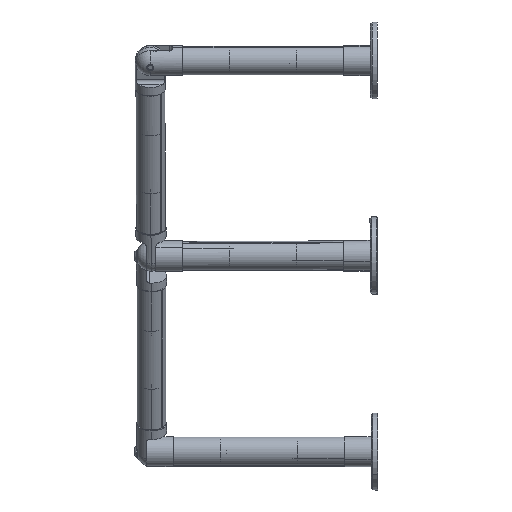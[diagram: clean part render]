
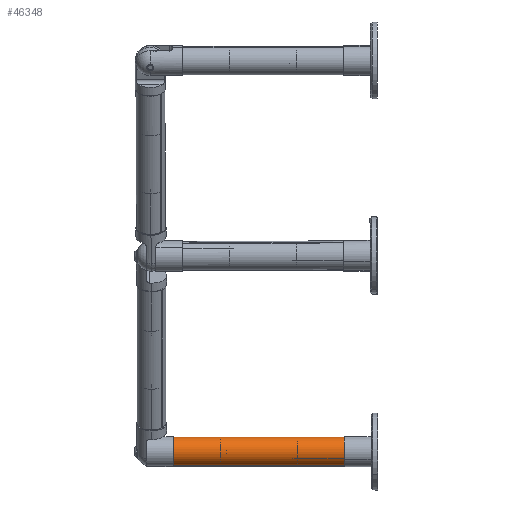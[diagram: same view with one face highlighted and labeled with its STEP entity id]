
A CAD part, left-side view. The second image highlights one B-rep face of the part: STEP entity #46348.
In plain terms, the highlighted cylindrical face has radius 13.716 mm (diameter 27.432 mm), a partial arc.
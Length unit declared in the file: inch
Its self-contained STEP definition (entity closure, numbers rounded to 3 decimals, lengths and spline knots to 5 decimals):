
#940 = FACE_OUTER_BOUND ( 'NONE', #60734, .T. ) ;
#1810 = CARTESIAN_POINT ( 'NONE',  ( 16.69224, 7.485, -15.11659 ) ) ;
#4452 = VERTEX_POINT ( 'NONE', #1810 ) ;
#7000 = CARTESIAN_POINT ( 'NONE',  ( 16.86395, 7.485, -14.60462 ) ) ;
#7647 = ORIENTED_EDGE ( 'NONE', *, *, #13522, .F. ) ;
#9088 = EDGE_CURVE ( 'NONE', #4452, #53776, #58171, .T. ) ;
#11036 = ORIENTED_EDGE ( 'NONE', *, *, #23769, .F. ) ;
#11256 = VECTOR ( 'NONE', #60947, 39.37008 ) ;
#11671 = DIRECTION ( 'NONE',  ( 0., -1., 0. ) ) ;
#12169 = CARTESIAN_POINT ( 'NONE',  ( 16.86395, 1.0965, -14.60462 ) ) ;
#12860 = DIRECTION ( 'NONE',  ( -0.318, 0., -0.948 ) ) ;
#12912 = CARTESIAN_POINT ( 'NONE',  ( 17.03567, 7.485, -14.09265 ) ) ;
#13522 = EDGE_CURVE ( 'NONE', #67352, #53776, #57748, .T. ) ;
#16550 = DIRECTION ( 'NONE',  ( 0., -1., 0. ) ) ;
#18041 = DIRECTION ( 'NONE',  ( -0.318, 0., -0.948 ) ) ;
#19788 = CARTESIAN_POINT ( 'NONE',  ( 16.69224, 1.0965, -15.11659 ) ) ;
#20567 = ORIENTED_EDGE ( 'NONE', *, *, #9088, .T. ) ;
#23769 = EDGE_CURVE ( 'NONE', #76156, #67352, #72347, .T. ) ;
#24000 = AXIS2_PLACEMENT_3D ( 'NONE', #68467, #16550, #33532 ) ;
#33532 = DIRECTION ( 'NONE',  ( -0.318, 0., -0.948 ) ) ;
#37701 = AXIS2_PLACEMENT_3D ( 'NONE', #7000, #48084, #12860 ) ;
#40899 = AXIS2_PLACEMENT_3D ( 'NONE', #12169, #53305, #18041 ) ;
#44847 = VECTOR ( 'NONE', #11671, 39.37008 ) ;
#46348 = ADVANCED_FACE ( 'NONE', ( #940 ), #59769, .T. ) ;
#48084 = DIRECTION ( 'NONE',  ( 0., -1., 0. ) ) ;
#51101 = CARTESIAN_POINT ( 'NONE',  ( 17.03567, 1.0965, -14.09265 ) ) ;
#52518 = ORIENTED_EDGE ( 'NONE', *, *, #57454, .T. ) ;
#52795 = CARTESIAN_POINT ( 'NONE',  ( 17.03567, 1.0965, -14.09265 ) ) ;
#53305 = DIRECTION ( 'NONE',  ( 0., -1., 0. ) ) ;
#53776 = VERTEX_POINT ( 'NONE', #55264 ) ;
#55264 = CARTESIAN_POINT ( 'NONE',  ( 16.69224, 1.0965, -15.11659 ) ) ;
#57454 = EDGE_CURVE ( 'NONE', #76156, #4452, #64832, .T. ) ;
#57748 = CIRCLE ( 'NONE', #40899, 0.54 ) ;
#58171 = LINE ( 'NONE', #19788, #11256 ) ;
#59769 = CYLINDRICAL_SURFACE ( 'NONE', #24000, 0.54 ) ;
#60734 = EDGE_LOOP ( 'NONE', ( #11036, #52518, #20567, #7647 ) ) ;
#60947 = DIRECTION ( 'NONE',  ( 0., -1., 0. ) ) ;
#64832 = CIRCLE ( 'NONE', #37701, 0.54 ) ;
#67352 = VERTEX_POINT ( 'NONE', #51101 ) ;
#68467 = CARTESIAN_POINT ( 'NONE',  ( 16.86395, 1.0965, -14.60462 ) ) ;
#72347 = LINE ( 'NONE', #52795, #44847 ) ;
#76156 = VERTEX_POINT ( 'NONE', #12912 ) ;
